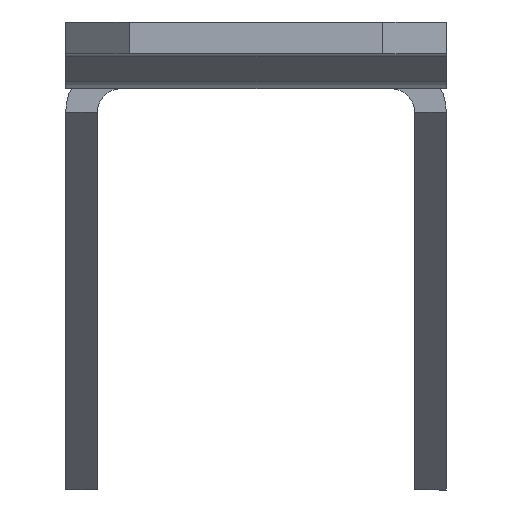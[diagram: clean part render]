
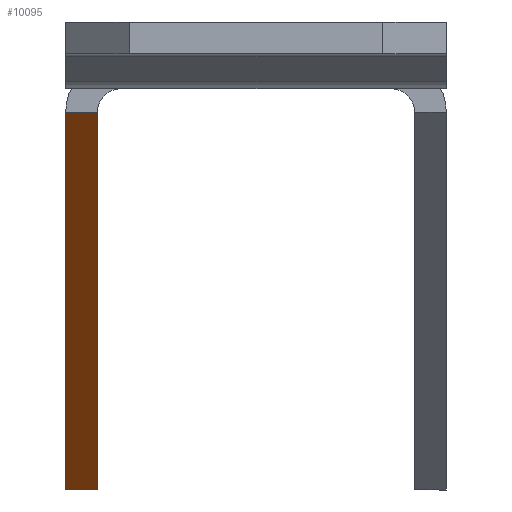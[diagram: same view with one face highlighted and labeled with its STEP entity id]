
A CAD part, left-side view. The second image highlights one B-rep face of the part: STEP entity #10095.
In plain terms, the highlighted planar face has unit normal (-0.707, 0, -0.707).
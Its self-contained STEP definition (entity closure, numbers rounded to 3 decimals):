
#1288 = ORIENTED_EDGE ( 'NONE', *, *, #1434, .T. ) ;
#1289 = ORIENTED_EDGE ( 'NONE', *, *, #1435, .F. ) ;
#1290 = ORIENTED_EDGE ( 'NONE', *, *, #1436, .F. ) ;
#1291 = ORIENTED_EDGE ( 'NONE', *, *, #1437, .T. ) ;
#1434 = EDGE_CURVE ( 'NONE', #2078, #2072, #7805, .T. ) ;
#1435 = EDGE_CURVE ( 'NONE', #2088, #2072, #7806, .T. ) ;
#1436 = EDGE_CURVE ( 'NONE', #2085, #2088, #7807, .T. ) ;
#1437 = EDGE_CURVE ( 'NONE', #2085, #2078, #7809, .T. ) ;
#1957 = CARTESIAN_POINT ( 'NONE',  ( 1.75, 12., -160.75 ) ) ;
#1981 = CARTESIAN_POINT ( 'NONE',  ( -133.7, -63., -25.3 ) ) ;
#1986 = CARTESIAN_POINT ( 'NONE',  ( 1.75, 10., -160.75 ) ) ;
#2023 = DIRECTION ( 'NONE',  ( 0.707, 0., -0.707 ) ) ;
#2046 = DIRECTION ( 'NONE',  ( 0.707, 0., -0.707 ) ) ;
#2072 = VERTEX_POINT ( 'NONE', #11060 ) ;
#2078 = VERTEX_POINT ( 'NONE', #11064 ) ;
#2085 = VERTEX_POINT ( 'NONE', #11070 ) ;
#2088 = VERTEX_POINT ( 'NONE', #11072 ) ;
#2175 = CARTESIAN_POINT ( 'NONE',  ( -157.5, 12., -1.5 ) ) ;
#2178 = DIRECTION ( 'NONE',  ( 0., 1., 0. ) ) ;
#6339 = FACE_OUTER_BOUND ( 'NONE', #11461, .T. ) ;
#7805 = LINE ( 'NONE', #1957, #7808 ) ;
#7806 = LINE ( 'NONE', #1981, #7810 ) ;
#7807 = LINE ( 'NONE', #1986, #7812 ) ;
#7808 = VECTOR ( 'NONE', #2023, 1000. ) ;
#7809 = LINE ( 'NONE', #2175, #7814 ) ;
#7810 = VECTOR ( 'NONE', #2178, 1000. ) ;
#7812 = VECTOR ( 'NONE', #2046, 1000. ) ;
#7814 = VECTOR ( 'NONE', #12892, 1000. ) ;
#9385 = CARTESIAN_POINT ( 'NONE',  ( -157.5, -63., -1.5 ) ) ;
#9387 = PLANE ( 'NONE',  #13453 ) ;
#9389 = DIRECTION ( 'NONE',  ( 0.707, 0., 0.707 ) ) ;
#9390 = DIRECTION ( 'NONE',  ( 0.707, 0., -0.707 ) ) ;
#10095 = ADVANCED_FACE ( 'NONE', ( #6339 ), #9387, .F. ) ;
#11060 = CARTESIAN_POINT ( 'NONE',  ( -133.7, 12., -25.3 ) ) ;
#11064 = CARTESIAN_POINT ( 'NONE',  ( -157.5, 12., -1.5 ) ) ;
#11070 = CARTESIAN_POINT ( 'NONE',  ( -157.5, 10., -1.5 ) ) ;
#11072 = CARTESIAN_POINT ( 'NONE',  ( -133.7, 10., -25.3 ) ) ;
#11461 = EDGE_LOOP ( 'NONE', ( #1288, #1289, #1290, #1291 ) ) ;
#12892 = DIRECTION ( 'NONE',  ( 0., 1., 0. ) ) ;
#13453 = AXIS2_PLACEMENT_3D ( 'NONE', #9385, #9389, #9390 ) ;
